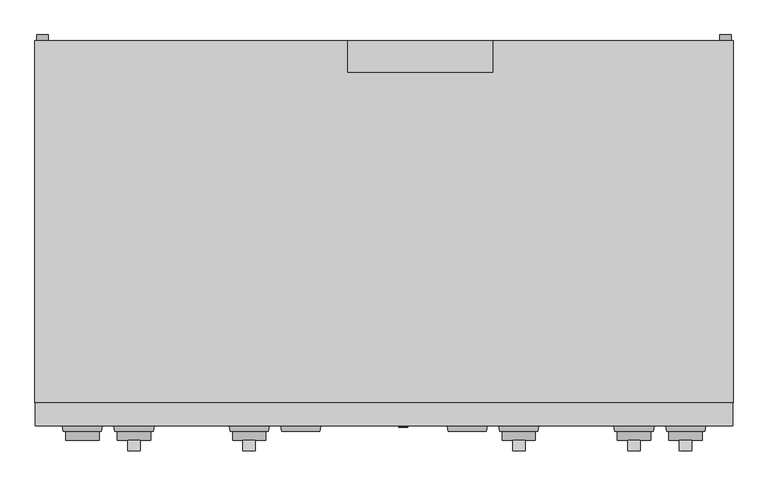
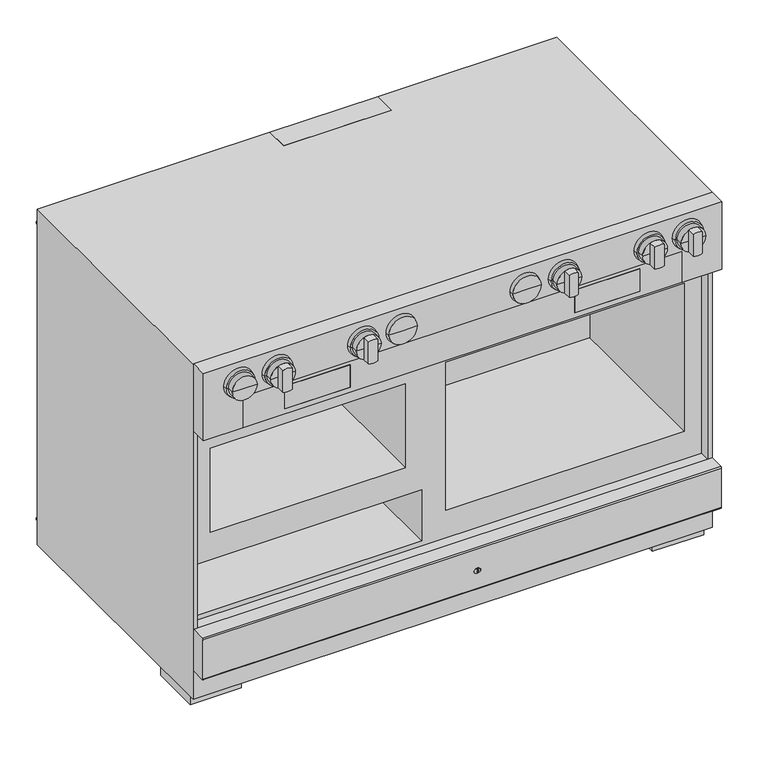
"""IFC4 building model written with IfcOpenShell, lengths in millimetres: proxy geometry, 11791680_USA_HR1954-3LP_EDST-CLS : 25195482_USA_11791680_HR1954-3LP_EDST-CLS."""

from ifc_helpers import new_model, si_unit, point, frame, frame_2d, origin, origin_with_axes, place, context, project, spatial, polyline, circle_curve, ellipse_curve, trimmed, segment, composite_curve, outline, extrude, faceted_brep, source, transform, mapped, element, save
from ifc_brep_helpers import plane_surface, cylinder_surface, revolved_surface, extruded_surface, advanced_brep


def specialty_equipment_6386a448(model_context):
    return source(origin(), model_context, "Body", "SolidModel", [
        extrude(outline(composite_curve([segment(polyline([(839.8328157, -447.5), (786.1671843, -447.5)]), True, "CONTINUOUS"), segment(trimmed(circle_curve(frame_2d((813.0, -436.5)), 29.0), [point((786.1671843, -447.5))], [point((786.1671843, -425.5))], False, "CARTESIAN"), True, "CONTINUOUS"), segment(polyline([(786.1671843, -425.5), (839.8328157, -425.5)]), True, "CONTINUOUS"), segment(trimmed(circle_curve(frame_2d((813.0, -436.5)), 29.0), [point((839.8328157, -425.5))], [point((839.8328157, -447.5))], False, "CARTESIAN"), True, "CONTINUOUS")], self_intersect=False)), frame((0.0, -717.0, 0.0), z_axis=(0.0, 1.0, 0.0), x_axis=(0.0, 0.0, 1.0)), (0.0, 0.0, 1.0), 18.0),
        extrude(outline(composite_curve([segment(polyline([(839.8328157, -246.5), (786.1671843, -246.5)]), True, "CONTINUOUS"), segment(trimmed(circle_curve(frame_2d((813.0, -235.5)), 29.0), [point((786.1671843, -246.5))], [point((786.1671843, -224.5))], False, "CARTESIAN"), True, "CONTINUOUS"), segment(polyline([(786.1671843, -224.5), (839.8328157, -224.5)]), True, "CONTINUOUS"), segment(trimmed(circle_curve(frame_2d((813.0, -235.5)), 29.0), [point((839.8328157, -224.5))], [point((839.8328157, -246.5))], False, "CARTESIAN"), True, "CONTINUOUS")], self_intersect=False)), frame((0.0, -717.0, 0.0), z_axis=(0.0, 1.0, 0.0), x_axis=(0.0, 0.0, 1.0)), (0.0, 0.0, 1.0), 18.0),
        extrude(outline(composite_curve([segment(polyline([(839.8328157, 224.5), (786.1671843, 224.5)]), True, "CONTINUOUS"), segment(trimmed(circle_curve(frame_2d((813.0, 235.5)), 29.0), [point((786.1671843, 224.5))], [point((786.1671843, 246.5))], False, "CARTESIAN"), True, "CONTINUOUS"), segment(polyline([(786.1671843, 246.5), (839.8328157, 246.5)]), True, "CONTINUOUS"), segment(trimmed(circle_curve(frame_2d((813.0, 235.5)), 29.0), [point((839.8328157, 246.5))], [point((839.8328157, 224.5))], False, "CARTESIAN"), True, "CONTINUOUS")], self_intersect=False)), frame((0.0, -717.0, 0.0), z_axis=(0.0, 1.0, 0.0), x_axis=(0.0, 0.0, 1.0)), (0.0, 0.0, 1.0), 18.0),
        extrude(outline(composite_curve([segment(trimmed(circle_curve(frame_2d((813.0, 436.5)), 29.0), [point((786.1671843, 425.5))], [point((786.1671843, 447.5))], False, "CARTESIAN"), True, "CONTINUOUS"), segment(polyline([(786.1671843, 447.5), (839.8328157, 447.5)]), True, "CONTINUOUS"), segment(trimmed(circle_curve(frame_2d((813.0, 436.5)), 29.0), [point((839.8328157, 447.5))], [point((839.8328157, 425.5))], False, "CARTESIAN"), True, "CONTINUOUS"), segment(polyline([(839.8328157, 425.5), (786.1671843, 425.5)]), True, "CONTINUOUS")], self_intersect=False)), frame((0.0, -717.0, 0.0), z_axis=(0.0, 1.0, 0.0), x_axis=(0.0, 0.0, 1.0)), (0.0, 0.0, 1.0), 18.0),
        advanced_brep(
        [(-526.5, -683.0, 813.0), (-497.5, -683.0, 813.0), (-555.5, -683.0, 813.0), (-555.5, -699.0, 813.0), (-497.5, -699.0, 813.0), (-526.5, -699.0, 813.0)],
        [
            (0, 1),
            (1, 2, circle_curve(frame((-526.5, -683.0, 813.0), z_axis=(0.0, 1.0, 0.0), x_axis=(1.0, 0.0, 0.0)), 29.0)),
            (2, 0),
            (2, 1, circle_curve(frame((-526.5, -683.0, 813.0), z_axis=(0.0, 1.0, 0.0), x_axis=(1.0, 0.0, 0.0)), 29.0)),
            (3, 4, circle_curve(frame((-526.5, -699.0, 813.0), z_axis=(0.0, -1.0, 0.0), x_axis=(1.0, 0.0, 0.0)), 29.0)),
            (4, 5),
            (5, 3),
            (4, 3, circle_curve(frame((-526.5, -699.0, 813.0), z_axis=(0.0, -1.0, 0.0), x_axis=(1.0, 0.0, 0.0)), 29.0)),
            (1, 4),
            (3, 2),
        ],
        [
            plane_surface(frame((-526.5, -683.0, 813.0), z_axis=(0.0, 1.0, 0.0), x_axis=(1.0, 0.0, 0.0))),
            plane_surface(frame((-526.5, -699.0, 813.0), z_axis=(0.0, -1.0, 0.0), x_axis=(1.0, 0.0, 0.0))),
            cylinder_surface(frame((-526.5, 751.3738435, 813.0), z_axis=(0.0, 1.0, 0.0), x_axis=(1.0, 0.0, 0.0)), 29.0),
        ],
        [
            (0, [[1, 2, 3]]),
            (0, [[-3, 4, -1]]),
            (1, [[5, 6, 7]]),
            (1, [[8, -7, -6]]),
            (2, [[-2, 9, -5, 10]]),
            (2, [[-4, -10, -8, -9]]),
        ],
    ),
        advanced_brep(
        [(-436.5, -683.0, 813.0), (-407.5, -683.0, 813.0), (-465.5, -683.0, 813.0), (-465.5, -699.0, 813.0), (-407.5, -699.0, 813.0), (-436.5, -699.0, 813.0)],
        [
            (0, 1),
            (1, 2, circle_curve(frame((-436.5, -683.0, 813.0), z_axis=(0.0, 1.0, 0.0), x_axis=(1.0, 0.0, 0.0)), 29.0)),
            (2, 0),
            (2, 1, circle_curve(frame((-436.5, -683.0, 813.0), z_axis=(0.0, 1.0, 0.0), x_axis=(1.0, 0.0, 0.0)), 29.0)),
            (3, 4, circle_curve(frame((-436.5, -699.0, 813.0), z_axis=(0.0, -1.0, 0.0), x_axis=(1.0, 0.0, 0.0)), 29.0)),
            (4, 5),
            (5, 3),
            (4, 3, circle_curve(frame((-436.5, -699.0, 813.0), z_axis=(0.0, -1.0, 0.0), x_axis=(1.0, 0.0, 0.0)), 29.0)),
            (1, 4),
            (3, 2),
        ],
        [
            plane_surface(frame((-436.5, -683.0, 813.0), z_axis=(0.0, 1.0, 0.0), x_axis=(1.0, 0.0, 0.0))),
            plane_surface(frame((-436.5, -699.0, 813.0), z_axis=(0.0, -1.0, 0.0), x_axis=(1.0, 0.0, 0.0))),
            cylinder_surface(frame((-436.5, 751.3738435, 813.0), z_axis=(0.0, 1.0, 0.0), x_axis=(1.0, 0.0, 0.0)), 29.0),
        ],
        [
            (0, [[1, 2, 3]]),
            (0, [[-3, 4, -1]]),
            (1, [[5, 6, 7]]),
            (1, [[8, -7, -6]]),
            (2, [[-2, 9, -5, 10]]),
            (2, [[-4, -10, -8, -9]]),
        ],
    ),
        advanced_brep(
        [(-235.5, -683.0, 813.0), (-206.5, -683.0, 813.0), (-264.5, -683.0, 813.0), (-264.5, -699.0, 813.0), (-206.5, -699.0, 813.0), (-235.5, -699.0, 813.0)],
        [
            (0, 1),
            (1, 2, circle_curve(frame((-235.5, -683.0, 813.0), z_axis=(0.0, 1.0, 0.0), x_axis=(1.0, 0.0, 0.0)), 29.0)),
            (2, 0),
            (2, 1, circle_curve(frame((-235.5, -683.0, 813.0), z_axis=(0.0, 1.0, 0.0), x_axis=(1.0, 0.0, 0.0)), 29.0)),
            (3, 4, circle_curve(frame((-235.5, -699.0, 813.0), z_axis=(0.0, -1.0, 0.0), x_axis=(1.0, 0.0, 0.0)), 29.0)),
            (4, 5),
            (5, 3),
            (4, 3, circle_curve(frame((-235.5, -699.0, 813.0), z_axis=(0.0, -1.0, 0.0), x_axis=(1.0, 0.0, 0.0)), 29.0)),
            (1, 4),
            (3, 2),
        ],
        [
            plane_surface(frame((-235.5, -683.0, 813.0), z_axis=(0.0, 1.0, 0.0), x_axis=(1.0, 0.0, 0.0))),
            plane_surface(frame((-235.5, -699.0, 813.0), z_axis=(0.0, -1.0, 0.0), x_axis=(1.0, 0.0, 0.0))),
            cylinder_surface(frame((-235.5, 751.3738435, 813.0), z_axis=(0.0, 1.0, 0.0), x_axis=(1.0, 0.0, 0.0)), 29.0),
        ],
        [
            (0, [[1, 2, 3]]),
            (0, [[-3, 4, -1]]),
            (1, [[5, 6, 7]]),
            (1, [[8, -7, -6]]),
            (2, [[-2, 9, -5, 10]]),
            (2, [[-4, -10, -8, -9]]),
        ],
    ),
        advanced_brep(
        [(235.5, -683.0, 813.0), (264.5, -683.0, 813.0), (206.5, -683.0, 813.0), (206.5, -699.0, 813.0), (264.5, -699.0, 813.0), (235.5, -699.0, 813.0)],
        [
            (0, 1),
            (1, 2, circle_curve(frame((235.5, -683.0, 813.0), z_axis=(0.0, 1.0, 0.0), x_axis=(1.0, 0.0, 0.0)), 29.0)),
            (2, 0),
            (2, 1, circle_curve(frame((235.5, -683.0, 813.0), z_axis=(0.0, 1.0, 0.0), x_axis=(1.0, 0.0, 0.0)), 29.0)),
            (3, 4, circle_curve(frame((235.5, -699.0, 813.0), z_axis=(0.0, -1.0, 0.0), x_axis=(1.0, 0.0, 0.0)), 29.0)),
            (4, 5),
            (5, 3),
            (4, 3, circle_curve(frame((235.5, -699.0, 813.0), z_axis=(0.0, -1.0, 0.0), x_axis=(1.0, 0.0, 0.0)), 29.0)),
            (1, 4),
            (3, 2),
        ],
        [
            plane_surface(frame((235.5, -683.0, 813.0), z_axis=(0.0, 1.0, 0.0), x_axis=(1.0, 0.0, 0.0))),
            plane_surface(frame((235.5, -699.0, 813.0), z_axis=(0.0, -1.0, 0.0), x_axis=(1.0, 0.0, 0.0))),
            cylinder_surface(frame((235.5, 751.3738435, 813.0), z_axis=(0.0, 1.0, 0.0), x_axis=(1.0, 0.0, 0.0)), 29.0),
        ],
        [
            (0, [[1, 2, 3]]),
            (0, [[-3, 4, -1]]),
            (1, [[5, 6, 7]]),
            (1, [[8, -7, -6]]),
            (2, [[-2, 9, -5, 10]]),
            (2, [[-4, -10, -8, -9]]),
        ],
    ),
        advanced_brep(
        [(436.5, -683.0, 813.0), (465.5, -683.0, 813.0), (407.5, -683.0, 813.0), (407.5, -699.0, 813.0), (465.5, -699.0, 813.0), (436.5, -699.0, 813.0)],
        [
            (0, 1),
            (1, 2, circle_curve(frame((436.5, -683.0, 813.0), z_axis=(0.0, 1.0, 0.0), x_axis=(1.0, 0.0, 0.0)), 29.0)),
            (2, 0),
            (2, 1, circle_curve(frame((436.5, -683.0, 813.0), z_axis=(0.0, 1.0, 0.0), x_axis=(1.0, 0.0, 0.0)), 29.0)),
            (3, 4, circle_curve(frame((436.5, -699.0, 813.0), z_axis=(0.0, -1.0, 0.0), x_axis=(1.0, 0.0, 0.0)), 29.0)),
            (4, 5),
            (5, 3),
            (4, 3, circle_curve(frame((436.5, -699.0, 813.0), z_axis=(0.0, -1.0, 0.0), x_axis=(1.0, 0.0, 0.0)), 29.0)),
            (1, 4),
            (3, 2),
        ],
        [
            plane_surface(frame((436.5, -683.0, 813.0), z_axis=(0.0, 1.0, 0.0), x_axis=(1.0, 0.0, 0.0))),
            plane_surface(frame((436.5, -699.0, 813.0), z_axis=(0.0, -1.0, 0.0), x_axis=(1.0, 0.0, 0.0))),
            cylinder_surface(frame((436.5, 751.3738435, 813.0), z_axis=(0.0, 1.0, 0.0), x_axis=(1.0, 0.0, 0.0)), 29.0),
        ],
        [
            (0, [[1, 2, 3]]),
            (0, [[-3, 4, -1]]),
            (1, [[5, 6, 7]]),
            (1, [[8, -7, -6]]),
            (2, [[-2, 9, -5, 10]]),
            (2, [[-4, -10, -8, -9]]),
        ],
    ),
        extrude(outline(composite_curve([segment(polyline([(786.1671843, 537.5), (839.8328157, 537.5)]), True, "CONTINUOUS"), segment(trimmed(circle_curve(frame_2d((813.0, 526.5)), 29.0), [point((839.8328157, 537.5))], [point((839.8328157, 515.5))], False, "CARTESIAN"), True, "CONTINUOUS"), segment(polyline([(839.8328157, 515.5), (786.1671843, 515.5)]), True, "CONTINUOUS"), segment(trimmed(circle_curve(frame_2d((813.0, 526.5)), 29.0), [point((786.1671843, 515.5))], [point((786.1671843, 537.5))], False, "CARTESIAN"), True, "CONTINUOUS")], self_intersect=False)), frame((0.0, -717.0, 0.0), z_axis=(0.0, 1.0, 0.0), x_axis=(0.0, 0.0, 1.0)), (0.0, 0.0, 1.0), 18.0),
        advanced_brep(
        [(526.5, -683.0, 813.0), (555.5, -683.0, 813.0), (497.5, -683.0, 813.0), (497.5, -699.0, 813.0), (555.5, -699.0, 813.0), (526.5, -699.0, 813.0)],
        [
            (0, 1),
            (1, 2, circle_curve(frame((526.5, -683.0, 813.0), z_axis=(0.0, 1.0, 0.0), x_axis=(1.0, 0.0, 0.0)), 29.0)),
            (2, 0),
            (2, 1, circle_curve(frame((526.5, -683.0, 813.0), z_axis=(0.0, 1.0, 0.0), x_axis=(1.0, 0.0, 0.0)), 29.0)),
            (3, 4, circle_curve(frame((526.5, -699.0, 813.0), z_axis=(0.0, -1.0, 0.0), x_axis=(1.0, 0.0, 0.0)), 29.0)),
            (4, 5),
            (5, 3),
            (4, 3, circle_curve(frame((526.5, -699.0, 813.0), z_axis=(0.0, -1.0, 0.0), x_axis=(1.0, 0.0, 0.0)), 29.0)),
            (1, 4),
            (3, 2),
        ],
        [
            plane_surface(frame((526.5, -683.0, 813.0), z_axis=(0.0, 1.0, 0.0), x_axis=(1.0, 0.0, 0.0))),
            plane_surface(frame((526.5, -699.0, 813.0), z_axis=(0.0, -1.0, 0.0), x_axis=(1.0, 0.0, 0.0))),
            cylinder_surface(frame((526.5, 751.3738435, 813.0), z_axis=(0.0, 1.0, 0.0), x_axis=(1.0, 0.0, 0.0)), 29.0),
        ],
        [
            (0, [[1, 2, 3]]),
            (0, [[-3, 4, -1]]),
            (1, [[5, 6, 7]]),
            (1, [[8, -7, -6]]),
            (2, [[-2, 9, -5, 10]]),
            (2, [[-4, -10, -8, -9]]),
        ],
    ),
        extrude(outline(polyline([(-263.5, -671.7), (-416.5, -671.7), (-416.5, -670.7), (-263.5, -670.7), (-263.5, -671.7)])), frame((0.0, 0.0, 707.0), z_axis=(0.0, 0.0, 1.0), x_axis=(1.0, 0.0, 0.0)), (0.0, 0.0, 1.0), 56.0),
        extrude(outline(polyline([(416.5, -671.7), (263.5, -671.7), (263.5, -670.7), (416.5, -670.7), (416.5, -671.7)])), frame((0.0, 0.0, 707.0), z_axis=(0.0, 0.0, 1.0), x_axis=(1.0, 0.0, 0.0)), (0.0, 0.0, 1.0), 56.0),
        extrude(outline(polyline([(772.0, 515.5), (772.0, -515.5), (695.0, -515.5), (695.0, 515.5), (772.0, 515.5)]), holes=[polyline([(763.0, -263.5), (707.0, -263.5), (707.0, -416.5), (763.0, -416.5), (763.0, -263.5)]), polyline([(763.0, 416.5), (707.0, 416.5), (707.0, 263.5), (763.0, 263.5), (763.0, 416.5)])]), frame((0.0, -671.7, 0.0), z_axis=(0.0, 1.0, 0.0), x_axis=(0.0, 0.0, 1.0)), (0.0, 0.0, 1.0), 5.0),
        faceted_brep([(608.5, -673.0, 862.0), (-608.5, -673.0, 862.0), (-608.5, -673.0, 695.0), (-515.5, -673.0, 695.0), (-515.5, -673.0, 772.0), (515.5, -673.0, 772.0), (515.5, -673.0, 695.0), (608.5, -673.0, 695.0), (608.5, -633.0, 862.0), (608.5, -633.0, 695.0), (-608.5, -633.0, 695.0), (-608.5, -633.0, 862.0), (515.5, -666.7, 695.0), (-515.5, -666.7, 695.0), (515.5, -666.7, 772.0), (-515.5, -666.7, 772.0)], [[[0, 1, 2, 3, 4, 5, 6, 7]], [[8, 9, 10, 11]], [[0, 7, 9, 8]], [[10, 9, 7, 6, 12, 13, 3, 2]], [[2, 1, 11, 10]], [[1, 0, 8, 11]], [[14, 15, 13, 12]], [[14, 12, 6, 5]], [[13, 15, 4, 3]], [[15, 14, 5, 4]]]),
        advanced_brep(
        [(-178.7367302, -683.0, 813.0), (-112.2632698, -683.0, 813.0), (-145.5, -683.0, 813.0), (-180.5, -673.0, 813.0), (-110.5, -673.0, 813.0), (-145.5, -673.0, 813.0)],
        [
            (0, 1, circle_curve(frame((-145.5, -683.0, 813.0), z_axis=(0.0, -1.0, 0.0), x_axis=(1.0, 0.0, 0.0)), 33.2367302)),
            (1, 2),
            (2, 0),
            (1, 0, circle_curve(frame((-145.5, -683.0, 813.0), z_axis=(0.0, -1.0, 0.0), x_axis=(1.0, 0.0, 0.0)), 33.2367302)),
            (3, 4, circle_curve(frame((-145.5, -673.0, 813.0), z_axis=(0.0, -1.0, 0.0), x_axis=(1.0, 0.0, 0.0)), 35.0)),
            (4, 1),
            (0, 3),
            (4, 3, circle_curve(frame((-145.5, -673.0, 813.0), z_axis=(0.0, -1.0, 0.0), x_axis=(1.0, 0.0, 0.0)), 35.0)),
            (5, 4),
            (3, 5),
        ],
        [
            plane_surface(frame((-145.5, -683.0, 813.0), z_axis=(0.0, -1.0, 0.0), x_axis=(1.0, 0.0, 0.0))),
            revolved_surface(polyline([(-112.2632698, -683.0, 813.0), (-110.5, -673.0, 813.0)]), (-145.5, 751.3738435, 813.0), (0.0, 1.0, 0.0)),
            plane_surface(frame((-145.5, -673.0, 813.0), z_axis=(0.0, 1.0, 0.0), x_axis=(1.0, 0.0, 0.0))),
        ],
        [
            (0, [[1, 2, 3]]),
            (0, [[4, -3, -2]]),
            (1, [[5, 6, -1, 7]]),
            (1, [[8, -7, -4, -6]]),
            (2, [[9, -5, 10]]),
            (2, [[-10, -8, -9]]),
        ],
    ),
        advanced_brep(
        [(112.2632698, -683.0, 813.0), (178.7367302, -683.0, 813.0), (145.5, -683.0, 813.0), (110.5, -673.0, 813.0), (180.5, -673.0, 813.0), (145.5, -673.0, 813.0)],
        [
            (0, 1, circle_curve(frame((145.5, -683.0, 813.0), z_axis=(0.0, -1.0, 0.0), x_axis=(1.0, 0.0, 0.0)), 33.2367302)),
            (1, 2),
            (2, 0),
            (1, 0, circle_curve(frame((145.5, -683.0, 813.0), z_axis=(0.0, -1.0, 0.0), x_axis=(1.0, 0.0, 0.0)), 33.2367302)),
            (3, 4, circle_curve(frame((145.5, -673.0, 813.0), z_axis=(0.0, -1.0, 0.0), x_axis=(1.0, 0.0, 0.0)), 35.0)),
            (4, 1),
            (0, 3),
            (4, 3, circle_curve(frame((145.5, -673.0, 813.0), z_axis=(0.0, -1.0, 0.0), x_axis=(1.0, 0.0, 0.0)), 35.0)),
            (5, 4),
            (3, 5),
        ],
        [
            plane_surface(frame((145.5, -683.0, 813.0), z_axis=(0.0, -1.0, 0.0), x_axis=(1.0, 0.0, 0.0))),
            revolved_surface(polyline([(178.7367302, -683.0, 813.0), (180.5, -673.0, 813.0)]), (145.5, 751.3738435, 813.0), (0.0, 1.0, 0.0)),
            plane_surface(frame((145.5, -673.0, 813.0), z_axis=(0.0, 1.0, 0.0), x_axis=(1.0, 0.0, 0.0))),
        ],
        [
            (0, [[1, 2, 3]]),
            (0, [[4, -3, -2]]),
            (1, [[5, 6, -1, 7]]),
            (1, [[8, -7, -4, -6]]),
            (2, [[9, -5, 10]]),
            (2, [[-10, -8, -9]]),
        ],
    ),
        advanced_brep(
        [(-268.7367302, -683.0, 813.0), (-202.2632698, -683.0, 813.0), (-235.5, -683.0, 813.0), (-270.5, -673.0, 813.0), (-200.5, -673.0, 813.0), (-235.5, -673.0, 813.0)],
        [
            (0, 1, circle_curve(frame((-235.5, -683.0, 813.0), z_axis=(0.0, -1.0, 0.0), x_axis=(1.0, 0.0, 0.0)), 33.2367302)),
            (1, 2),
            (2, 0),
            (1, 0, circle_curve(frame((-235.5, -683.0, 813.0), z_axis=(0.0, -1.0, 0.0), x_axis=(1.0, 0.0, 0.0)), 33.2367302)),
            (3, 4, circle_curve(frame((-235.5, -673.0, 813.0), z_axis=(0.0, -1.0, 0.0), x_axis=(1.0, 0.0, 0.0)), 35.0)),
            (4, 1),
            (0, 3),
            (4, 3, circle_curve(frame((-235.5, -673.0, 813.0), z_axis=(0.0, -1.0, 0.0), x_axis=(1.0, 0.0, 0.0)), 35.0)),
            (5, 4),
            (3, 5),
        ],
        [
            plane_surface(frame((-235.5, -683.0, 813.0), z_axis=(0.0, -1.0, 0.0), x_axis=(1.0, 0.0, 0.0))),
            revolved_surface(polyline([(-202.2632698, -683.0, 813.0), (-200.5, -673.0, 813.0)]), (-235.5, 751.3738435, 813.0), (0.0, 1.0, 0.0)),
            plane_surface(frame((-235.5, -673.0, 813.0), z_axis=(0.0, 1.0, 0.0), x_axis=(1.0, 0.0, 0.0))),
        ],
        [
            (0, [[1, 2, 3]]),
            (0, [[4, -3, -2]]),
            (1, [[5, 6, -1, 7]]),
            (1, [[8, -7, -4, -6]]),
            (2, [[9, -5, 10]]),
            (2, [[-10, -8, -9]]),
        ],
    ),
        advanced_brep(
        [(-559.7367302, -683.0, 813.0), (-493.2632698, -683.0, 813.0), (-526.5, -683.0, 813.0), (-561.5, -673.0, 813.0), (-491.5, -673.0, 813.0), (-526.5, -673.0, 813.0)],
        [
            (0, 1, circle_curve(frame((-526.5, -683.0, 813.0), z_axis=(0.0, -1.0, 0.0), x_axis=(1.0, 0.0, 0.0)), 33.2367302)),
            (1, 2),
            (2, 0),
            (1, 0, circle_curve(frame((-526.5, -683.0, 813.0), z_axis=(0.0, -1.0, 0.0), x_axis=(1.0, 0.0, 0.0)), 33.2367302)),
            (3, 4, circle_curve(frame((-526.5, -673.0, 813.0), z_axis=(0.0, -1.0, 0.0), x_axis=(1.0, 0.0, 0.0)), 35.0)),
            (4, 1),
            (0, 3),
            (4, 3, circle_curve(frame((-526.5, -673.0, 813.0), z_axis=(0.0, -1.0, 0.0), x_axis=(1.0, 0.0, 0.0)), 35.0)),
            (5, 4),
            (3, 5),
        ],
        [
            plane_surface(frame((-526.5, -683.0, 813.0), z_axis=(0.0, -1.0, 0.0), x_axis=(1.0, 0.0, 0.0))),
            revolved_surface(polyline([(-493.2632698, -683.0, 813.0), (-491.5, -673.0, 813.0)]), (-526.5, 751.3738435, 813.0), (0.0, 1.0, 0.0)),
            plane_surface(frame((-526.5, -673.0, 813.0), z_axis=(0.0, 1.0, 0.0), x_axis=(1.0, 0.0, 0.0))),
        ],
        [
            (0, [[1, 2, 3]]),
            (0, [[4, -3, -2]]),
            (1, [[5, 6, -1, 7]]),
            (1, [[8, -7, -4, -6]]),
            (2, [[9, -5, 10]]),
            (2, [[-10, -8, -9]]),
        ],
    ),
        advanced_brep(
        [(-469.7367302, -683.0, 813.0), (-403.2632698, -683.0, 813.0), (-436.5, -683.0, 813.0), (-471.5, -673.0, 813.0), (-401.5, -673.0, 813.0), (-436.5, -673.0, 813.0)],
        [
            (0, 1, circle_curve(frame((-436.5, -683.0, 813.0), z_axis=(0.0, -1.0, 0.0), x_axis=(1.0, 0.0, 0.0)), 33.2367302)),
            (1, 2),
            (2, 0),
            (1, 0, circle_curve(frame((-436.5, -683.0, 813.0), z_axis=(0.0, -1.0, 0.0), x_axis=(1.0, 0.0, 0.0)), 33.2367302)),
            (3, 4, circle_curve(frame((-436.5, -673.0, 813.0), z_axis=(0.0, -1.0, 0.0), x_axis=(1.0, 0.0, 0.0)), 35.0)),
            (4, 1),
            (0, 3),
            (4, 3, circle_curve(frame((-436.5, -673.0, 813.0), z_axis=(0.0, -1.0, 0.0), x_axis=(1.0, 0.0, 0.0)), 35.0)),
            (5, 4),
            (3, 5),
        ],
        [
            plane_surface(frame((-436.5, -683.0, 813.0), z_axis=(0.0, -1.0, 0.0), x_axis=(1.0, 0.0, 0.0))),
            revolved_surface(polyline([(-403.2632698, -683.0, 813.0), (-401.5, -673.0, 813.0)]), (-436.5, 751.3738435, 813.0), (0.0, 1.0, 0.0)),
            plane_surface(frame((-436.5, -673.0, 813.0), z_axis=(0.0, 1.0, 0.0), x_axis=(1.0, 0.0, 0.0))),
        ],
        [
            (0, [[1, 2, 3]]),
            (0, [[4, -3, -2]]),
            (1, [[5, 6, -1, 7]]),
            (1, [[8, -7, -4, -6]]),
            (2, [[9, -5, 10]]),
            (2, [[-10, -8, -9]]),
        ],
    ),
        advanced_brep(
        [(202.2632698, -683.0, 813.0), (268.7367302, -683.0, 813.0), (235.5, -683.0, 813.0), (200.5, -673.0, 813.0), (270.5, -673.0, 813.0), (235.5, -673.0, 813.0)],
        [
            (0, 1, circle_curve(frame((235.5, -683.0, 813.0), z_axis=(0.0, -1.0, 0.0), x_axis=(1.0, 0.0, 0.0)), 33.2367302)),
            (1, 2),
            (2, 0),
            (1, 0, circle_curve(frame((235.5, -683.0, 813.0), z_axis=(0.0, -1.0, 0.0), x_axis=(1.0, 0.0, 0.0)), 33.2367302)),
            (3, 4, circle_curve(frame((235.5, -673.0, 813.0), z_axis=(0.0, -1.0, 0.0), x_axis=(1.0, 0.0, 0.0)), 35.0)),
            (4, 1),
            (0, 3),
            (4, 3, circle_curve(frame((235.5, -673.0, 813.0), z_axis=(0.0, -1.0, 0.0), x_axis=(1.0, 0.0, 0.0)), 35.0)),
            (5, 4),
            (3, 5),
        ],
        [
            plane_surface(frame((235.5, -683.0, 813.0), z_axis=(0.0, -1.0, 0.0), x_axis=(1.0, 0.0, 0.0))),
            revolved_surface(polyline([(268.7367302, -683.0, 813.0), (270.5, -673.0, 813.0)]), (235.5, 751.3738435, 813.0), (0.0, 1.0, 0.0)),
            plane_surface(frame((235.5, -673.0, 813.0), z_axis=(0.0, 1.0, 0.0), x_axis=(1.0, 0.0, 0.0))),
        ],
        [
            (0, [[1, 2, 3]]),
            (0, [[4, -3, -2]]),
            (1, [[5, 6, -1, 7]]),
            (1, [[8, -7, -4, -6]]),
            (2, [[9, -5, 10]]),
            (2, [[-10, -8, -9]]),
        ],
    ),
        advanced_brep(
        [(403.2632698, -683.0, 813.0), (469.7367302, -683.0, 813.0), (436.5, -683.0, 813.0), (401.5, -673.0, 813.0), (471.5, -673.0, 813.0), (436.5, -673.0, 813.0)],
        [
            (0, 1, circle_curve(frame((436.5, -683.0, 813.0), z_axis=(0.0, -1.0, 0.0), x_axis=(1.0, 0.0, 0.0)), 33.2367302)),
            (1, 2),
            (2, 0),
            (1, 0, circle_curve(frame((436.5, -683.0, 813.0), z_axis=(0.0, -1.0, 0.0), x_axis=(1.0, 0.0, 0.0)), 33.2367302)),
            (3, 4, circle_curve(frame((436.5, -673.0, 813.0), z_axis=(0.0, -1.0, 0.0), x_axis=(1.0, 0.0, 0.0)), 35.0)),
            (4, 1),
            (0, 3),
            (4, 3, circle_curve(frame((436.5, -673.0, 813.0), z_axis=(0.0, -1.0, 0.0), x_axis=(1.0, 0.0, 0.0)), 35.0)),
            (5, 4),
            (3, 5),
        ],
        [
            plane_surface(frame((436.5, -683.0, 813.0), z_axis=(0.0, -1.0, 0.0), x_axis=(1.0, 0.0, 0.0))),
            revolved_surface(polyline([(469.7367302, -683.0, 813.0), (471.5, -673.0, 813.0)]), (436.5, 751.3738435, 813.0), (0.0, 1.0, 0.0)),
            plane_surface(frame((436.5, -673.0, 813.0), z_axis=(0.0, 1.0, 0.0), x_axis=(1.0, 0.0, 0.0))),
        ],
        [
            (0, [[1, 2, 3]]),
            (0, [[4, -3, -2]]),
            (1, [[5, 6, -1, 7]]),
            (1, [[8, -7, -4, -6]]),
            (2, [[9, -5, 10]]),
            (2, [[-10, -8, -9]]),
        ],
    ),
        advanced_brep(
        [(493.2632698, -683.0, 813.0), (559.7367302, -683.0, 813.0), (526.5, -683.0, 813.0), (491.5, -673.0, 813.0), (561.5, -673.0, 813.0), (526.5, -673.0, 813.0)],
        [
            (0, 1, circle_curve(frame((526.5, -683.0, 813.0), z_axis=(0.0, -1.0, 0.0), x_axis=(1.0, 0.0, 0.0)), 33.2367302)),
            (1, 2),
            (2, 0),
            (1, 0, circle_curve(frame((526.5, -683.0, 813.0), z_axis=(0.0, -1.0, 0.0), x_axis=(1.0, 0.0, 0.0)), 33.2367302)),
            (3, 4, circle_curve(frame((526.5, -673.0, 813.0), z_axis=(0.0, -1.0, 0.0), x_axis=(1.0, 0.0, 0.0)), 35.0)),
            (4, 1),
            (0, 3),
            (4, 3, circle_curve(frame((526.5, -673.0, 813.0), z_axis=(0.0, -1.0, 0.0), x_axis=(1.0, 0.0, 0.0)), 35.0)),
            (5, 4),
            (3, 5),
        ],
        [
            plane_surface(frame((526.5, -683.0, 813.0), z_axis=(0.0, -1.0, 0.0), x_axis=(1.0, 0.0, 0.0))),
            revolved_surface(polyline([(559.7367302, -683.0, 813.0), (561.5, -673.0, 813.0)]), (526.5, 751.3738435, 813.0), (0.0, 1.0, 0.0)),
            plane_surface(frame((526.5, -673.0, 813.0), z_axis=(0.0, 1.0, 0.0), x_axis=(1.0, 0.0, 0.0))),
        ],
        [
            (0, [[1, 2, 3]]),
            (0, [[4, -3, -2]]),
            (1, [[5, 6, -1, 7]]),
            (1, [[8, -7, -4, -6]]),
            (2, [[9, -5, 10]]),
            (2, [[-10, -8, -9]]),
        ],
    ),
        extrude(outline(composite_curve([segment(trimmed(circle_curve(frame_2d((822.0, 596.5)), 10.0), [point((822.0, 606.5))], [point((822.0, 586.5))], False, "CARTESIAN"), True, "CONTINUOUS"), segment(trimmed(circle_curve(frame_2d((822.0, 596.5)), 10.0), [point((822.0, 586.5))], [point((822.0, 606.5))], False, "CARTESIAN"), True, "CONTINUOUS")], self_intersect=False)), frame((0.0, 0.0, 0.0), z_axis=(0.0, 1.0, 0.0), x_axis=(0.0, 0.0, 1.0)), (0.0, 0.0, 1.0), 10.0),
        extrude(outline(composite_curve([segment(trimmed(circle_curve(frame_2d((87.0, 596.5)), 10.0), [point((87.0, 606.5))], [point((87.0, 586.5))], False, "CARTESIAN"), True, "CONTINUOUS"), segment(trimmed(circle_curve(frame_2d((87.0, 596.5)), 10.0), [point((87.0, 586.5))], [point((87.0, 606.5))], False, "CARTESIAN"), True, "CONTINUOUS")], self_intersect=False)), frame((0.0, 0.0, 0.0), z_axis=(0.0, 1.0, 0.0), x_axis=(0.0, 0.0, 1.0)), (0.0, 0.0, 1.0), 10.0),
        extrude(outline(composite_curve([segment(trimmed(circle_curve(frame_2d((822.0, -596.5)), 10.0), [point((822.0, -586.5))], [point((822.0, -606.5))], False, "CARTESIAN"), True, "CONTINUOUS"), segment(trimmed(circle_curve(frame_2d((822.0, -596.5)), 10.0), [point((822.0, -606.5))], [point((822.0, -586.5))], False, "CARTESIAN"), True, "CONTINUOUS")], self_intersect=False)), frame((0.0, 0.0, 0.0), z_axis=(0.0, 1.0, 0.0), x_axis=(0.0, 0.0, 1.0)), (0.0, 0.0, 1.0), 10.0),
        extrude(outline(composite_curve([segment(trimmed(circle_curve(frame_2d((87.0, -596.5)), 10.0), [point((87.0, -586.5))], [point((87.0, -606.5))], False, "CARTESIAN"), True, "CONTINUOUS"), segment(trimmed(circle_curve(frame_2d((87.0, -596.5)), 10.0), [point((87.0, -606.5))], [point((87.0, -586.5))], False, "CARTESIAN"), True, "CONTINUOUS")], self_intersect=False)), frame((0.0, 0.0, 0.0), z_axis=(0.0, 1.0, 0.0), x_axis=(0.0, 0.0, 1.0)), (0.0, 0.0, 1.0), 10.0),
        extrude(outline(polyline([(-63.5, 0.0), (189.5, 0.0), (189.5, -55.0), (-63.5, -55.0), (-63.5, 0.0)])), frame((0.0, 0.0, 778.0), z_axis=(0.0, 0.0, 1.0), x_axis=(1.0, 0.0, 0.0)), (0.0, 0.0, 1.0), 84.0),
        extrude(outline(composite_curve([segment(trimmed(circle_curve(frame_2d((-152.0, 40.0)), 40.0), [point((-113.2701665, 30.0))], [point((-190.7298335, 30.0))], False, "CARTESIAN"), True, "CONTINUOUS"), segment(polyline([(-190.7298335, 30.0), (-113.2701665, 30.0)]), True, "CONTINUOUS")], self_intersect=False)), frame((-462.5, 0.0, 0.0), z_axis=(1.0, 0.0, 0.0), x_axis=(0.0, 1.0, 0.0)), (0.0, 0.0, 1.0), 28.0),
        extrude(outline(composite_curve([segment(polyline([(-518.5009008, -37.0), (-519.7635363, -37.0), (-519.5191787, -35.9415709), (-519.3778726, -31.1117735)]), True, "CONTINUOUS"), segment(trimmed(circle_curve(frame_2d((-517.887549, -31.1553762)), 1.4909613), [point((-519.3778726, -31.1117735))], [point((-518.1381402, -29.6856246))], False, "CARTESIAN"), True, "CONTINUOUS"), segment(trimmed(circle_curve(frame_2d((-516.6175682, -34.7832301)), 5.3195602), [point((-518.1381402, -29.6856246))], [point((-514.940667, -29.7348914))], False, "CARTESIAN"), True, "CONTINUOUS"), segment(polyline([(-514.940667, -29.7348914), (-513.8643767, -30.4338425), (-513.3177226, -31.6616478), (-514.5710839, -31.8155412), (-515.1628147, -30.9704619)]), True, "CONTINUOUS"), segment(trimmed(circle_curve(frame_2d((-516.389909, -33.6278559)), 2.9270297), [point((-515.1628147, -30.9704619))], [point((-517.835883, -31.0829271))], True, "CARTESIAN"), True, "CONTINUOUS"), segment(polyline([(-517.835883, -31.0829271), (-518.1819155, -32.289686), (-514.9250607, -32.9227545)]), True, "CONTINUOUS"), segment(trimmed(circle_curve(frame_2d((-515.3373847, -35.0439776)), 2.1609254), [point((-514.9250607, -32.9227545))], [point((-513.7872437, -36.5495212))], False, "CARTESIAN"), True, "CONTINUOUS"), segment(trimmed(circle_curve(frame_2d((-515.7230106, -33.6941434)), 3.4496922), [point((-513.7872437, -36.5495212))], [point((-516.9810512, -36.9062626))], False, "CARTESIAN"), True, "CONTINUOUS"), segment(polyline([(-516.9810512, -36.9062626), (-518.1943945, -36.0566705), (-518.5009008, -37.0)]), True, "CONTINUOUS")], self_intersect=False), holes=[composite_curve([segment(polyline([(-518.1808047, -33.7241112), (-517.9778117, -34.8753414), (-517.1808418, -35.5929363), (-515.8846505, -35.8921857)]), True, "CONTINUOUS"), segment(trimmed(circle_curve(frame_2d((-515.6641539, -34.9371101)), 0.980198), [point((-515.8846505, -35.8921857))], [point((-515.0826105, -34.148063))], True, "CARTESIAN"), True, "CONTINUOUS"), segment(polyline([(-515.0826105, -34.148063), (-516.183896, -33.9339948), (-518.1808047, -33.7241112)]), True, "CONTINUOUS")], self_intersect=False)]), frame((0.0, 0.0, 753.0), z_axis=(0.0, 0.0, 1.0), x_axis=(1.0, 0.0, 0.0)), (0.0, 0.0, 1.0), 1.0),
        extrude(outline(composite_curve([segment(polyline([(-521.9581842, -34.6489066), (-520.702206, -34.8031213), (-521.6593436, -36.5606642)]), True, "CONTINUOUS"), segment(trimmed(circle_curve(frame_2d((-523.8057471, -33.6354063)), 3.6282478), [point((-521.6593436, -36.5606642))], [point((-525.3962663, -36.8964538))], False, "CARTESIAN"), True, "CONTINUOUS"), segment(trimmed(circle_curve(frame_2d((-524.2731504, -34.593725)), 2.5620205), [point((-525.3962663, -36.8964538))], [point((-526.82893, -34.7724425))], False, "CARTESIAN"), True, "CONTINUOUS"), segment(trimmed(circle_curve(frame_2d((-525.117737, -34.6527843)), 1.7153715), [point((-526.82893, -34.7724425))], [point((-525.647816, -33.021369))], False, "CARTESIAN"), True, "CONTINUOUS"), segment(polyline([(-525.647816, -33.021369), (-523.8069947, -32.4232499), (-522.487673, -30.9770867)]), True, "CONTINUOUS"), segment(trimmed(circle_curve(frame_2d((-523.6408399, -33.351197)), 2.6393548), [point((-522.487673, -30.9770867))], [point((-524.7940069, -30.9770867))], True, "CARTESIAN"), True, "CONTINUOUS"), segment(polyline([(-524.7940069, -30.9770867), (-525.2553884, -31.6611129), (-526.5084996, -31.5072502), (-526.0756304, -30.3795875)]), True, "CONTINUOUS"), segment(trimmed(circle_curve(frame_2d((-523.4527143, -33.6576461)), 4.1982564), [point((-526.0756304, -30.3795875))], [point((-523.5505395, -29.4605295))], False, "CARTESIAN"), True, "CONTINUOUS"), segment(trimmed(circle_curve(frame_2d((-523.4805679, -32.4626064)), 3.0028922), [point((-523.5505395, -29.4605295))], [point((-521.0718203, -30.6694816))], False, "CARTESIAN"), True, "CONTINUOUS"), segment(trimmed(circle_curve(frame_2d((-522.9380028, -31.5301363)), 2.0550823), [point((-521.0718203, -30.6694816))], [point((-521.9341096, -33.323335))], False, "CARTESIAN"), True, "CONTINUOUS"), segment(polyline([(-521.9341096, -33.323335), (-523.8494535, -33.9828408), (-525.5597255, -34.9076387), (-525.1768706, -35.6156702)]), True, "CONTINUOUS"), segment(trimmed(circle_curve(frame_2d((-523.8695779, -32.6018954)), 3.2850956), [point((-525.1768706, -35.6156702))], [point((-522.5622852, -35.6156702))], True, "CARTESIAN"), True, "CONTINUOUS"), segment(polyline([(-522.5622852, -35.6156702), (-521.9581842, -34.6489066)]), True, "CONTINUOUS")], self_intersect=False)), frame((0.0, 0.0, 753.0), z_axis=(0.0, 0.0, 1.0), x_axis=(1.0, 0.0, 0.0)), (0.0, 0.0, 1.0), 1.0),
        extrude(outline(composite_curve([segment(polyline([(-511.5941465, -31.8216074), (-507.5193946, -31.8216074), (-507.5193946, -33.0727848), (-510.3300756, -33.0727848), (-510.3300756, -34.8953779), (-509.0547934, -35.5734575), (-507.3554891, -35.8730907)]), True, "CONTINUOUS"), segment(trimmed(circle_curve(frame_2d((-507.2763582, -32.1835188)), 3.6904203), [point((-507.3554891, -35.8730907))], [point((-503.5917956, -31.975672))], True, "CARTESIAN"), True, "CONTINUOUS"), segment(trimmed(circle_curve(frame_2d((-507.7742118, -32.2116028)), 4.1890654), [point((-503.5917956, -31.975672))], [point((-507.3924604, -28.0399683))], True, "CARTESIAN"), True, "CONTINUOUS"), segment(trimmed(circle_curve(frame_2d((-507.6434541, -30.7827322)), 2.7542243), [point((-507.3924604, -28.0399683))], [point((-509.7311401, -28.9862582))], True, "CARTESIAN"), True, "CONTINUOUS"), segment(polyline([(-509.7311401, -28.9862582), (-510.2913432, -30.1348449), (-511.4545959, -29.808521), (-510.7222817, -28.1459412)]), True, "CONTINUOUS"), segment(trimmed(circle_curve(frame_2d((-507.5056573, -31.3038983)), 4.5077007), [point((-510.7222817, -28.1459412))], [point((-507.3478593, -26.7989604))], False, "CARTESIAN"), True, "CONTINUOUS"), segment(trimmed(circle_curve(frame_2d((-507.5297107, -32.0029797)), 5.2071956), [point((-507.3478593, -26.7989604))], [point((-502.3225151, -32.0029797))], False, "CARTESIAN"), True, "CONTINUOUS"), segment(trimmed(circle_curve(frame_2d((-507.5187023, -31.9634409)), 5.1963376), [point((-502.3225151, -32.0029797))], [point((-507.5187023, -37.1597785))], False, "CARTESIAN"), True, "CONTINUOUS"), segment(polyline([(-507.5187023, -37.1597785), (-509.5821579, -36.7823822), (-511.5941465, -35.5734575), (-511.5941465, -31.8216074)]), True, "CONTINUOUS")], self_intersect=False)), frame((0.0, 0.0, 753.0), z_axis=(0.0, 0.0, 1.0), x_axis=(1.0, 0.0, 0.0)), (0.0, 0.0, 1.0), 1.0),
        extrude(outline(composite_curve([segment(polyline([(-633.0, 203.0), (-633.0, 100.0), (-668.0, 100.0)]), True, "CONTINUOUS"), segment(trimmed(circle_curve(frame_2d((-668.0, 103.0)), 3.0), [point((-668.0, 100.0))], [point((-671.0, 103.0))], False, "CARTESIAN"), True, "CONTINUOUS"), segment(polyline([(-671.0, 103.0), (-671.0, 200.0)]), True, "CONTINUOUS"), segment(trimmed(circle_curve(frame_2d((-668.0, 200.0)), 3.0), [point((-671.0, 200.0))], [point((-668.0, 203.0))], False, "CARTESIAN"), True, "CONTINUOUS"), segment(polyline([(-668.0, 203.0), (-633.0, 203.0)]), True, "CONTINUOUS")], self_intersect=False)), frame((-608.5, 0.0, 0.0), z_axis=(1.0, 0.0, 0.0), x_axis=(0.0, 1.0, 0.0)), (0.0, 0.0, 1.0), 1217.0),
        extrude(outline(polyline([(424.9261097, -43.2846028), (417.6553153, -43.2846028), (417.6553153, -42.0259878), (423.6324687, -42.0259878), (423.6324687, -39.0398896), (417.9699511, -39.0398896), (417.9699511, -37.7868997), (423.6324687, -37.7868997), (423.6324687, -34.484481), (417.5234692, -34.484481), (417.5234692, -33.223126), (424.9261097, -33.223126), (424.9261097, -43.2846028)])), frame((0.0, 0.0, 74.0), z_axis=(0.0, 0.0, 1.0), x_axis=(1.0, 0.0, 0.0)), (0.0, 0.0, 1.0), 1.0),
        extrude(outline(polyline([(415.5939455, -43.2781045), (409.4083542, -43.2781045), (409.4083542, -42.0259878), (414.4083542, -42.0259878), (414.4083542, -33.223126), (415.5939455, -33.223126), (415.5939455, -43.2781045)])), frame((0.0, 0.0, 74.0), z_axis=(0.0, 0.0, 1.0), x_axis=(1.0, 0.0, 0.0)), (0.0, 0.0, 1.0), 1.0),
        extrude(outline(composite_curve([segment(trimmed(circle_curve(frame_2d((417.5, -39.0)), 7.5), [point((417.5, -46.5))], [point((417.5, -31.5))], False, "CARTESIAN"), True, "CONTINUOUS"), segment(trimmed(circle_curve(frame_2d((417.5, -39.0)), 7.5), [point((417.5, -31.5))], [point((417.5, -46.5))], False, "CARTESIAN"), True, "CONTINUOUS")], self_intersect=False)), frame((0.0, 0.0, 75.0), z_axis=(0.0, 0.0, 1.0), x_axis=(1.0, 0.0, 0.0)), (0.0, 0.0, 1.0), 30.0),
        extrude(outline(composite_curve([segment(trimmed(circle_curve(frame_2d((-514.5, -32.0)), 7.5), [point((-522.0, -32.0))], [point((-507.0, -32.0))], False, "CARTESIAN"), True, "CONTINUOUS"), segment(trimmed(circle_curve(frame_2d((-514.5, -32.0)), 7.5), [point((-507.0, -32.0))], [point((-522.0, -32.0))], False, "CARTESIAN"), True, "CONTINUOUS")], self_intersect=False)), frame((0.0, 0.0, 754.0), z_axis=(0.0, 0.0, 1.0), x_axis=(1.0, 0.0, 0.0)), (0.0, 0.0, 1.0), 30.0),
        extrude(outline(polyline([(755.9900117, -20.0376107), (766.0405487, -17.3032463), (766.0405487, -18.6010309), (757.3952189, -20.6941056), (766.0411296, -23.1946617), (766.0411296, -25.0615338), (757.4117226, -27.5845612), (766.0419182, -29.665026), (766.0419182, -30.9626989), (755.9984871, -28.2244126), (755.9984871, -26.8735976), (764.8308623, -24.1286268), (755.9900117, -21.5716905), (755.9900117, -20.0376107)])), frame((0.0, -25.0, 0.0), z_axis=(0.0, 1.0, 0.0), x_axis=(0.0, 0.0, 1.0)), (0.0, 0.0, 1.0), 1.0),
        extrude(outline(polyline([(756.0, -8.9829639), (766.0509015, -8.9829639), (766.0509015, -10.2409127), (761.1386151, -10.2409127), (766.0475587, -15.3904554), (766.0475587, -17.1455728), (761.9164775, -12.8179994), (756.0, -17.3019347), (756.0, -15.7701694), (761.0664133, -11.9304743), (759.4465471, -10.2392234), (756.0, -10.2392234), (756.0, -8.9829639)])), frame((0.0, -25.0, 0.0), z_axis=(0.0, 1.0, 0.0), x_axis=(0.0, 0.0, 1.0)), (0.0, 0.0, 1.0), 1.0),
        extrude(outline(composite_curve([segment(trimmed(circle_curve(frame_2d((761.0, -19.5)), 7.5), [point((761.0, -12.0))], [point((761.0, -27.0))], False, "CARTESIAN"), True, "CONTINUOUS"), segment(trimmed(circle_curve(frame_2d((761.0, -19.5)), 7.5), [point((761.0, -27.0))], [point((761.0, -12.0))], False, "CARTESIAN"), True, "CONTINUOUS")], self_intersect=False)), frame((0.0, -55.0, 0.0), z_axis=(0.0, 1.0, 0.0), x_axis=(0.0, 0.0, 1.0)), (0.0, 0.0, 1.0), 30.0),
        faceted_brep([(-609.5, 0.0, 862.0), (-609.5, -633.0, 862.0), (609.5, -633.0, 862.0), (609.5, 0.0, 862.0), (189.5, 0.0, 862.0), (189.5, -55.0, 862.0), (-63.5, -55.0, 862.0), (-63.5, 0.0, 862.0), (609.5, 0.0, 30.0), (609.5, -633.0, 30.0), (-609.5, -633.0, 30.0), (-609.5, 0.0, 30.0), (-598.5, 0.0, 30.0), (-598.5, -77.0, 30.0), (598.5, -77.0, 30.0), (598.5, 0.0, 30.0), (598.5, 0.0, 105.0), (189.5, 0.0, 105.0), (-63.5, 0.0, 105.0), (-459.5, 0.0, 105.0), (-459.5, 0.0, 784.0), (-547.5, 0.0, 784.0), (-547.5, 0.0, 105.0), (-598.5, 0.0, 105.0), (598.5, -633.0, 695.0), (598.5, -633.0, 203.0), (-598.5, -633.0, 203.0), (-598.5, -633.0, 695.0), (598.5, -608.0, 695.0), (-598.5, -608.0, 695.0), (-598.5, -608.0, 203.0), (598.5, -608.0, 203.0), (557.5, -608.0, 639.0), (557.5, -608.0, 271.0), (-2.5, -608.0, 271.0), (-2.5, -608.0, 639.0), (-58.5, -608.0, 342.0), (-58.5, -608.0, 215.0), (-592.5, -608.0, 215.0), (-592.5, -608.0, 342.0), (-96.5, -608.0, 618.0), (-96.5, -608.0, 410.0), (-554.5, -608.0, 410.0), (-554.5, -608.0, 618.0), (557.5, -224.0, 639.0), (-2.5, -224.0, 639.0), (-2.5, -224.0, 271.0), (557.5, -224.0, 271.0), (-96.5, -235.0, 618.0), (-554.5, -235.0, 618.0), (-554.5, -235.0, 410.0), (-96.5, -235.0, 410.0), (-58.5, -95.0, 342.0), (-592.5, -95.0, 342.0), (-592.5, -95.0, 215.0), (-58.5, -95.0, 215.0), (-598.5, -77.0, 105.0), (598.5, -77.0, 105.0), (-547.5, -55.0, 105.0), (-459.5, -55.0, 105.0), (-63.5, -55.0, 105.0), (189.5, -55.0, 105.0), (-547.5, -55.0, 784.0), (-459.5, -55.0, 784.0)], [[[0, 1, 2, 3, 4, 5, 6, 7]], [[8, 9, 10, 11, 12, 13, 14, 15]], [[3, 8, 15, 16, 17, 4]], [[11, 0, 7, 18, 19, 20, 21, 22, 23, 12]], [[1, 0, 11, 10]], [[2, 1, 10, 9], [24, 25, 26, 27]], [[3, 2, 9, 8]], [[28, 29, 30, 31], [32, 33, 34, 35], [36, 37, 38, 39], [40, 41, 42, 43]], [[28, 31, 25, 24]], [[31, 30, 26, 25]], [[30, 29, 27, 26]], [[29, 28, 24, 27]], [[44, 45, 46, 47]], [[44, 47, 33, 32]], [[47, 46, 34, 33]], [[46, 45, 35, 34]], [[45, 44, 32, 35]], [[48, 49, 50, 51]], [[51, 50, 42, 41]], [[50, 49, 43, 42]], [[49, 48, 40, 43]], [[52, 53, 54, 55]], [[52, 55, 37, 36]], [[55, 54, 38, 37]], [[54, 53, 39, 38]], [[53, 52, 36, 39]], [[56, 57, 14, 13]], [[57, 56, 23, 22, 58, 59, 19, 18, 60, 61, 17, 16]], [[57, 16, 15, 14]], [[23, 56, 13, 12]], [[62, 63, 59, 58]], [[5, 61, 60, 6]], [[6, 60, 18, 7]], [[63, 62, 21, 20]], [[63, 20, 19, 59]], [[21, 62, 58, 22]], [[48, 51, 41, 40]], [[61, 5, 4, 17]]]),
        extrude(outline(composite_curve([segment(trimmed(circle_curve(frame_2d((-152.0, 40.0)), 40.0), [point((-113.2701665, 30.0))], [point((-190.7298335, 30.0))], False, "CARTESIAN"), True, "CONTINUOUS"), segment(polyline([(-190.7298335, 30.0), (-113.2701665, 30.0)]), True, "CONTINUOUS")], self_intersect=False)), frame((434.5, 0.0, 0.0), z_axis=(1.0, 0.0, 0.0), x_axis=(0.0, 1.0, 0.0)), (0.0, 0.0, 1.0), 28.0),
        extrude(outline(polyline([(-482.5, -489.0), (-482.5, -609.0), (-602.5, -609.0), (-602.5, -489.0), (-482.5, -489.0)])), origin_with_axes(), (0.0, 0.0, 1.0), 30.0),
        extrude(outline(polyline([(602.5, -489.0), (602.5, -609.0), (482.5, -609.0), (482.5, -489.0), (602.5, -489.0)])), origin_with_axes(), (0.0, 0.0, 1.0), 30.0),
        advanced_brep(
        [(32.17, -676.0, 148.1995), (32.17, -676.0, 149.563), (41.2015, -676.0, 149.563), (25.4875, -676.0, 149.563), (29.2, -676.0, 145.0), (40.972, -676.0, 148.1995), (36.895, -676.0, 148.1995), (33.682, -676.0, 146.6875), (32.17, -676.0, 151.291), (32.17, -676.0, 152.7625), (34.4785, -676.0, 152.7625), (34.4785, -676.0, 151.291), (32.17, -675.0, 148.1995), (33.682, -675.0, 146.6875), (36.895, -675.0, 148.1995), (40.972, -675.0, 148.1995), (29.2, -675.0, 145.0), (25.4875, -675.0, 149.563), (41.2015, -675.0, 149.563), (32.17, -675.0, 149.563), (32.17, -675.0, 151.291), (34.4785, -675.0, 151.291), (34.4785, -675.0, 152.7625), (32.17, -675.0, 152.7625)],
        [
            (0, 1),
            (1, 2),
            (2, 3, ellipse_curve(frame((33.3445, -676.0, 149.563), z_axis=(0.0, -1.0, 0.0), x_axis=(-1.0, 0.0, 0.0)), 7.857, 6.4935)),
            (3, 4, circle_curve(frame((30.7120736, -676.0, 150.022), z_axis=(0.0, -1.0, 0.0), x_axis=(0.0, 0.0, -1.0)), 5.2446974)),
            (4, 5, circle_curve(frame((33.1872142, -676.0, 153.586), z_axis=(0.0, -1.0, 0.0), x_axis=(0.0, 0.0, -1.0)), 9.46664)),
            (5, 6),
            (6, 7, circle_curve(frame((34.3419118, -676.0, 149.455), z_axis=(0.0, 1.0, 0.0), x_axis=(0.0, 0.0, -1.0)), 2.8450905)),
            (7, 0, circle_curve(frame((33.682, -676.0, 148.1995), z_axis=(0.0, 1.0, 0.0), x_axis=(0.0, 0.0, -1.0)), 1.512)),
            (8, 9),
            (9, 10, circle_curve(frame((33.32425, -676.0, 152.7625), z_axis=(0.0, 1.0, 0.0), x_axis=(0.0, 0.0, -1.0)), 1.15425)),
            (10, 11),
            (11, 8),
            (12, 13, circle_curve(frame((33.682, -675.0, 148.1995), z_axis=(0.0, -1.0, 0.0), x_axis=(0.0, 0.0, -1.0)), 1.512)),
            (13, 14, circle_curve(frame((34.3419118, -675.0, 149.455), z_axis=(0.0, -1.0, 0.0), x_axis=(0.0, 0.0, -1.0)), 2.8450905)),
            (14, 15),
            (15, 16, circle_curve(frame((33.1872142, -675.0, 153.586), z_axis=(0.0, 1.0, 0.0), x_axis=(0.0, 0.0, -1.0)), 9.46664)),
            (16, 17, circle_curve(frame((30.7120736, -675.0, 150.022), z_axis=(0.0, 1.0, 0.0), x_axis=(0.0, 0.0, -1.0)), 5.2446974)),
            (17, 18, ellipse_curve(frame((33.3445, -675.0, 149.563), z_axis=(0.0, 1.0, 0.0), x_axis=(-1.0, 0.0, 0.0)), 7.857, 6.4935)),
            (18, 19),
            (19, 12),
            (20, 21),
            (21, 22),
            (22, 23, circle_curve(frame((33.32425, -675.0, 152.7625), z_axis=(0.0, -1.0, 0.0), x_axis=(0.0, 0.0, -1.0)), 1.15425)),
            (23, 20),
            (0, 12),
            (19, 1),
            (18, 2),
            (5, 15),
            (14, 6),
            (17, 3),
            (13, 7),
            (16, 4),
            (8, 20),
            (23, 9),
            (22, 10),
            (21, 11),
        ],
        [
            plane_surface(frame((32.17, -676.0, 149.563), z_axis=(0.0, -1.0, 0.0), x_axis=(0.0, 0.0, 1.0))),
            plane_surface(frame((32.17, -675.0, 149.563), z_axis=(0.0, 1.0, 0.0), x_axis=(0.0, 0.0, -1.0))),
            plane_surface(frame((32.17, -676.0, 148.1995), z_axis=(1.0, 0.0, 0.0), x_axis=(0.0, 1.0, 0.0))),
            plane_surface(frame((32.17, -676.0, 149.563), z_axis=(0.0, 0.0, -1.0), x_axis=(0.0, 1.0, 0.0))),
            plane_surface(frame((40.972, -676.0, 148.1995), z_axis=(0.0, 0.0, 1.0), x_axis=(0.0, 1.0, 0.0))),
            extruded_surface(trimmed(ellipse_curve(frame((33.3445, -674.0, 149.563), z_axis=(0.0, -1.0, 0.0), x_axis=(-1.0, 0.0, 0.0)), 7.857, 6.4935), [point((41.2015, -674.0, 149.563))], [point((25.4875, -674.0, 149.563))], True, "CARTESIAN"), (0.0, -1.0, 0.0), 1.0),
            revolved_surface(polyline([(34.3419118, -675.0, 146.60990950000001), (34.3419118, -676.0, 146.60990950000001)]), (34.3419118, -675.0, 149.455), (0.0, 1.0, 0.0)),
            revolved_surface(polyline([(33.682, -675.0, 146.6875), (33.682, -676.0, 146.6875)]), (33.682, -675.0, 148.1995), (0.0, 1.0, 0.0)),
            cylinder_surface(frame((30.7120736, -675.0, 150.022), z_axis=(0.0, -1.0, 0.0), x_axis=(0.0, 0.0, -1.0)), 5.2446974),
            cylinder_surface(frame((33.1872142, -675.0, 153.586), z_axis=(0.0, -1.0, 0.0), x_axis=(0.0, 0.0, -1.0)), 9.46664),
            plane_surface(frame((32.17, -676.0, 151.291), z_axis=(1.0, 0.0, 0.0), x_axis=(0.0, 1.0, 0.0))),
            revolved_surface(polyline([(33.32425, -675.0, 151.60825), (33.32425, -676.0, 151.60825)]), (33.32425, -675.0, 152.7625), (0.0, 1.0, 0.0)),
            plane_surface(frame((34.4785, -676.0, 152.7625), z_axis=(-1.0, 0.0, 0.0), x_axis=(0.0, 1.0, 0.0))),
            plane_surface(frame((34.4785, -676.0, 151.291), z_axis=(0.0, 0.0, 1.0), x_axis=(0.0, 1.0, 0.0))),
        ],
        [
            (0, [[1, 2, 3, 4, 5, 6, 7, 8], [9, 10, 11, 12]]),
            (1, [[13, 14, 15, 16, 17, 18, 19, 20], [21, 22, 23, 24]]),
            (2, [[-1, 25, -20, 26]]),
            (3, [[-2, -26, -19, 27]]),
            (4, [[-6, 28, -15, 29]]),
            (5, [[-3, -27, -18, 30]]),
            (6, [[-7, -29, -14, 31]]),
            (7, [[-8, -31, -13, -25]]),
            (8, [[-4, -30, -17, 32]]),
            (9, [[-5, -32, -16, -28]]),
            (10, [[-9, 33, -24, 34]]),
            (11, [[-10, -34, -23, 35]]),
            (12, [[-11, -35, -22, 36]]),
            (13, [[-12, -36, -21, -33]]),
        ],
    ),
    ])


if __name__ == "__main__":
    model = new_model("IFC4")
    model_context = context("Model", 3, world=origin())
    ifc_project = project(units=[si_unit("LENGTHUNIT", "METRE", prefix="MILLI")], contexts=[model_context])
    site = spatial("IfcSite", under=ifc_project)
    building = spatial("IfcBuilding", under=site)
    placement = place(None, origin())
    specialty_equipment_shape = specialty_equipment_6386a448(model_context)
    element("IfcBuildingElementProxy", 1, Name="11791680_USA_HR1954-3LP_EDST-CLS : 25195482_USA_11791680_HR1954-3LP_EDST-CLS", ObjectType="11791680_USA_HR1954-3LP_EDST-CLS : 25195482_USA_11791680_HR1954-3LP_EDST-CLS", at=placement, inside=building, context=model_context, shape_type="MappedRepresentation", body=[
        mapped(specialty_equipment_shape, transform((0.0, 0.0, 0.0), x_axis=(1.0, 0.0, 0.0), y_axis=(0.0, 1.0, 0.0), z_axis=(0.0, 0.0, 1.0))),
    ])
    save(model, "model.ifc")
